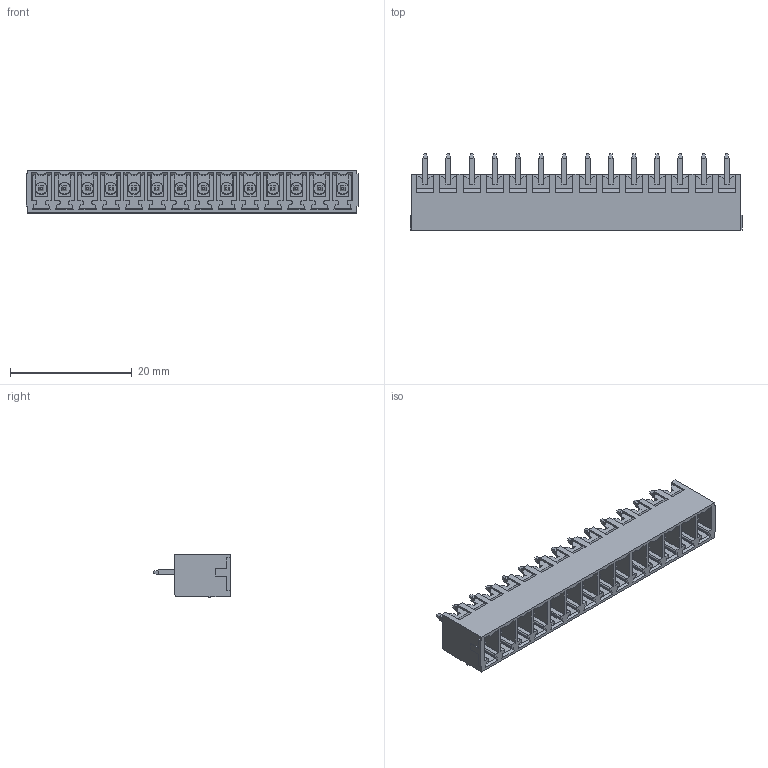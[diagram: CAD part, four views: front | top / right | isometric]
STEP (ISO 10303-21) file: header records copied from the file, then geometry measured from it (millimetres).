
FILE_DESCRIPTION(('FreeCAD Model'),'2;1');
FILE_NAME('Open CASCADE Shape Model','2023-05-24T16:07:11',('Author'),( ''),'Open CASCADE STEP processor 7.6','FreeCAD','Unknown');
FILE_SCHEMA(('AUTOMOTIVE_DESIGN { 1 0 10303 214 1 1 1 1 }'));
Products named in the file (1): BR7MC2-14
Bounding box: 54.53 x 12.6 x 7.2 mm (x, y, z)
Volume: 1635.5 mm3; surface area: 4946.4 mm2
Topology: 1 solids, 1 shells, 1133 faces, 3015 edges, 1912 vertices
Faces by surface type: plane 992, cylinder 71, cone 42, sphere 28
Entity records: 74885 total; most frequent: CARTESIAN_POINT 14301, DIRECTION 11306, LINE 8341, VECTOR 8341, ORIENTED_EDGE 5974, PCURVE 5974, DEFINITIONAL_REPRESENTATION 5974, EDGE_CURVE 2987
